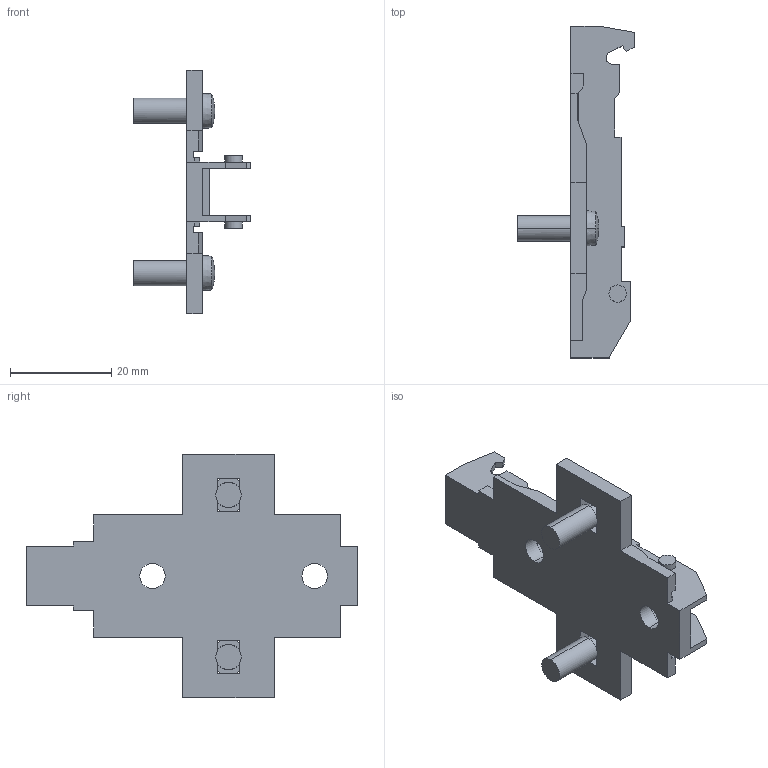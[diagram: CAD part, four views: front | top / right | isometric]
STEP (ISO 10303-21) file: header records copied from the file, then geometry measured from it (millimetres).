
FILE_DESCRIPTION (( 'STEP AP214' ), '1' );
FILE_NAME ('1D_Kreuzmontageplatte 37_32_5mm_Dübel_lang_2.step', '2018-10-02T12:39:21', ( '' ), ( '' ), 'SwSTEP 2.0', 'SolidWorks 2017', '' );
FILE_SCHEMA (( 'AUTOMOTIVE_DESIGN' ));
Length unit declared in the file: millimetre
Products named in the file (1): 1D_Kreuzmontageplatte 37_32_5mm_Dübel_lang_2
Bounding box: 23 x 65.5 x 48 mm (x, y, z)
Volume: 6616.4 mm3; surface area: 7083.1 mm2
Topology: 1 solids, 1 shells, 130 faces, 400 edges, 258 vertices
Faces by surface type: plane 100, cylinder 22, sphere 4, cone 4
Entity records: 4506 total; most frequent: ORIENTED_EDGE 800, CARTESIAN_POINT 789, DIRECTION 742, EDGE_CURVE 400, LINE 320, VECTOR 320, VERTEX_POINT 258, AXIS2_PLACEMENT_3D 211
